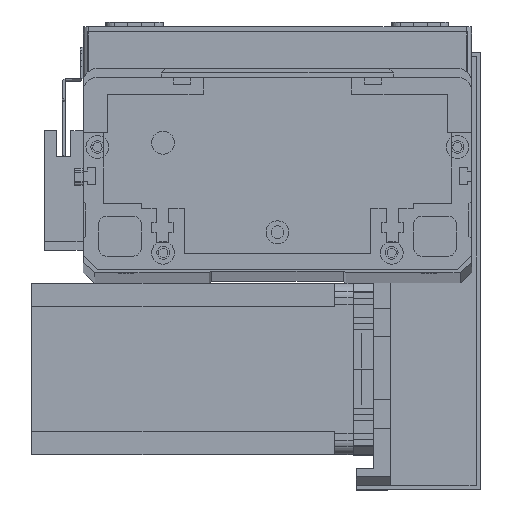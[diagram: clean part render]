
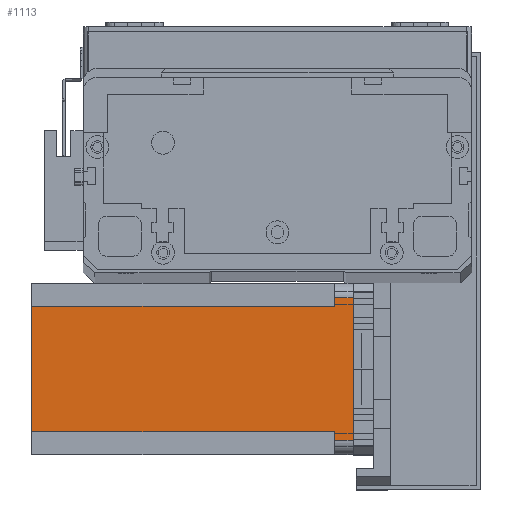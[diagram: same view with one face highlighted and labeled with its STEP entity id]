
A CAD part, top view. The second image highlights one B-rep face of the part: STEP entity #1113.
In plain terms, the highlighted planar face has unit normal (0, 0, 1) as drawn and (0, -1, 0) by its records, which use the part's own axes.
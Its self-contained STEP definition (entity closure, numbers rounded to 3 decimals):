
#712 = DIRECTION ( 'NONE',  ( 0., 0., 1. ) ) ;
#1113 = ADVANCED_FACE ( 'NONE', ( #16893 ), #24839, .T. ) ;
#1244 = LINE ( 'NONE', #9948, #13135 ) ;
#1353 = ORIENTED_EDGE ( 'NONE', *, *, #7898, .T. ) ;
#2844 = VECTOR ( 'NONE', #4072, 1000. ) ;
#2912 = CARTESIAN_POINT ( 'NONE',  ( 55., 0., -112.5 ) ) ;
#4072 = DIRECTION ( 'NONE',  ( 1., 0., 0. ) ) ;
#4097 = CARTESIAN_POINT ( 'NONE',  ( 8., 0., -112.5 ) ) ;
#4468 = EDGE_CURVE ( 'NONE', #23718, #16784, #24264, .T. ) ;
#4792 = EDGE_CURVE ( 'NONE', #18794, #9140, #28514, .T. ) ;
#4870 = CARTESIAN_POINT ( 'NONE',  ( 52., 0., -112.5 ) ) ;
#4937 = EDGE_CURVE ( 'NONE', #7792, #9140, #24944, .T. ) ;
#5446 = ORIENTED_EDGE ( 'NONE', *, *, #4468, .F. ) ;
#5846 = ORIENTED_EDGE ( 'NONE', *, *, #25713, .T. ) ;
#6377 = ORIENTED_EDGE ( 'NONE', *, *, #4792, .T. ) ;
#6457 = CARTESIAN_POINT ( 'NONE',  ( 0., 0., -112.5 ) ) ;
#7293 = CARTESIAN_POINT ( 'NONE',  ( 52., 0., -112.5 ) ) ;
#7744 = LINE ( 'NONE', #7293, #19564 ) ;
#7792 = VERTEX_POINT ( 'NONE', #13105 ) ;
#7898 = EDGE_CURVE ( 'NONE', #23998, #18342, #27663, .T. ) ;
#8005 = ORIENTED_EDGE ( 'NONE', *, *, #17194, .F. ) ;
#8980 = DIRECTION ( 'NONE',  ( 0., -1., 0. ) ) ;
#9138 = ORIENTED_EDGE ( 'NONE', *, *, #4937, .F. ) ;
#9140 = VERTEX_POINT ( 'NONE', #11222 ) ;
#9927 = EDGE_CURVE ( 'NONE', #18727, #18794, #1244, .T. ) ;
#9948 = CARTESIAN_POINT ( 'NONE',  ( 52., 0., -6.5 ) ) ;
#11222 = CARTESIAN_POINT ( 'NONE',  ( 55., 0., 0. ) ) ;
#12033 = EDGE_CURVE ( 'NONE', #23998, #23718, #14079, .T. ) ;
#12949 = CARTESIAN_POINT ( 'NONE',  ( 5., 0., -6.5 ) ) ;
#13105 = CARTESIAN_POINT ( 'NONE',  ( 5., 0., 0. ) ) ;
#13135 = VECTOR ( 'NONE', #14699, 1000. ) ;
#13828 = EDGE_LOOP ( 'NONE', ( #28236, #6377, #9138, #5846, #5446, #25719, #1353, #8005 ) ) ;
#14079 = LINE ( 'NONE', #4097, #14814 ) ;
#14699 = DIRECTION ( 'NONE',  ( 1., 0., 0. ) ) ;
#14814 = VECTOR ( 'NONE', #18267, 1000. ) ;
#16322 = VECTOR ( 'NONE', #712, 1000. ) ;
#16784 = VERTEX_POINT ( 'NONE', #12949 ) ;
#16891 = DIRECTION ( 'NONE',  ( -1., 0., 0. ) ) ;
#16893 = FACE_OUTER_BOUND ( 'NONE', #13828, .T. ) ;
#17194 = EDGE_CURVE ( 'NONE', #18727, #18342, #7744, .T. ) ;
#17792 = VECTOR ( 'NONE', #26857, 1000. ) ;
#18019 = CARTESIAN_POINT ( 'NONE',  ( 8., 0., -112.5 ) ) ;
#18211 = VECTOR ( 'NONE', #16891, 1000. ) ;
#18267 = DIRECTION ( 'NONE',  ( 0., 0., 1. ) ) ;
#18342 = VERTEX_POINT ( 'NONE', #4870 ) ;
#18727 = VERTEX_POINT ( 'NONE', #22576 ) ;
#18794 = VERTEX_POINT ( 'NONE', #20595 ) ;
#18893 = VECTOR ( 'NONE', #18920, 1000. ) ;
#18920 = DIRECTION ( 'NONE',  ( 1., 0., 0. ) ) ;
#19438 = CARTESIAN_POINT ( 'NONE',  ( 8., 0., -6.5 ) ) ;
#19564 = VECTOR ( 'NONE', #26008, 1000. ) ;
#20595 = CARTESIAN_POINT ( 'NONE',  ( 55., 0., -6.5 ) ) ;
#22318 = CARTESIAN_POINT ( 'NONE',  ( 0., 0., 0. ) ) ;
#22466 = DIRECTION ( 'NONE',  ( 0., 0., -1. ) ) ;
#22576 = CARTESIAN_POINT ( 'NONE',  ( 52., 0., -6.5 ) ) ;
#23619 = CARTESIAN_POINT ( 'NONE',  ( 8., 0., -6.5 ) ) ;
#23718 = VERTEX_POINT ( 'NONE', #23619 ) ;
#23860 = LINE ( 'NONE', #24605, #17792 ) ;
#23998 = VERTEX_POINT ( 'NONE', #18019 ) ;
#24264 = LINE ( 'NONE', #19438, #18211 ) ;
#24605 = CARTESIAN_POINT ( 'NONE',  ( 5., 0., -112.5 ) ) ;
#24839 = PLANE ( 'NONE',  #27569 ) ;
#24944 = LINE ( 'NONE', #22318, #18893 ) ;
#25713 = EDGE_CURVE ( 'NONE', #7792, #16784, #23860, .T. ) ;
#25719 = ORIENTED_EDGE ( 'NONE', *, *, #12033, .F. ) ;
#26008 = DIRECTION ( 'NONE',  ( 0., 0., -1. ) ) ;
#26585 = CARTESIAN_POINT ( 'NONE',  ( 0., 0., -112.5 ) ) ;
#26857 = DIRECTION ( 'NONE',  ( 0., 0., -1. ) ) ;
#27569 = AXIS2_PLACEMENT_3D ( 'NONE', #26585, #8980, #22466 ) ;
#27663 = LINE ( 'NONE', #6457, #2844 ) ;
#28236 = ORIENTED_EDGE ( 'NONE', *, *, #9927, .T. ) ;
#28514 = LINE ( 'NONE', #2912, #16322 ) ;
